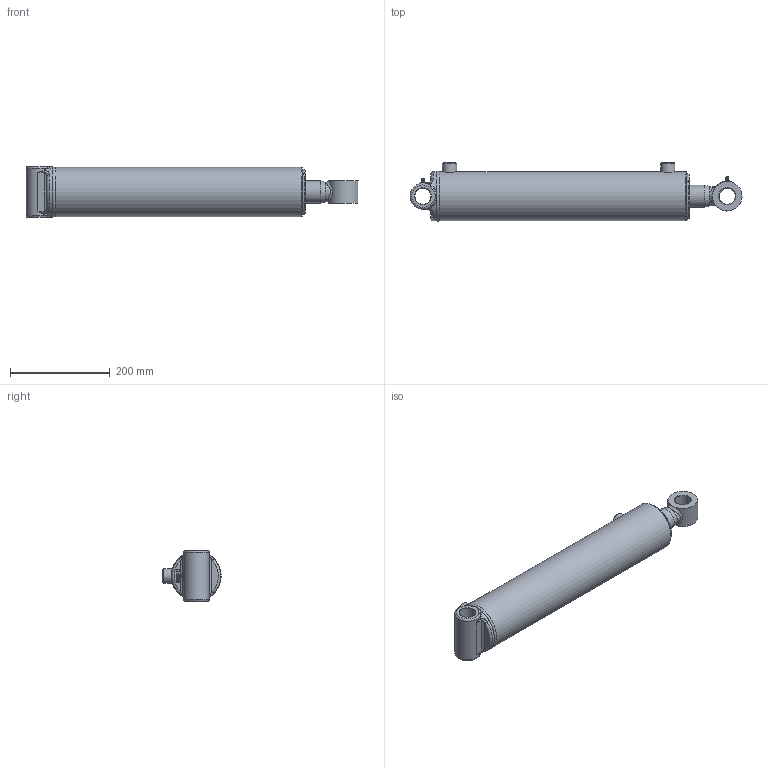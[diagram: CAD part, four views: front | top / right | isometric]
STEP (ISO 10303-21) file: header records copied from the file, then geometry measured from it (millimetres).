
FILE_DESCRIPTION(/* description */ ('Ø3.50 X 16.00 DA'),/* implementation_level */ '2;1');
FILE_NAME(/* name */ 'T:\Aces\Jobs\037ead3d15f64e9d9250a265fdf28e11\result.stp',/* time_stamp */ '2022-04-18T16:26:34+00:00',/* author */ (''),/* organization */ ('PRINCE MANUFACTURING'),/* preprocessor_version */ 'ST-DEVELOPER v18.1',/* originating_system */ 'Autodesk Inventor 2022',/* authorisation */ '');
FILE_SCHEMA (('AUTOMOTIVE_DESIGN { 1 0 10303 214 3 1 1 }'));
Length unit declared in the file: inch
Products named in the file (21): PC3516017A00-240XYXA; 0617-XYSF000-19570; 0517-T-19570; 161700179; 200015603; 06Weld1_C360; 0717-P-100; 220000210; 0817-G-175; 230025105; 230025005; 240000022; 240061338; 240000338; 0210A-HAW5-21687XA; 0110A-HAW5-21687; 210600529; 02Weld_C360; 240020007; 250014175; 270010020
Assembly tree (22 placements, depth 3):
  PC3516017A00-240XYXA
    0617-XYSF000-19570
      0517-T-19570
      161700179
      200015603  x2
      06Weld1_C360
    0717-P-100
    220000210
    0817-G-175
    230025105
    230025005
    240000022
    240061338
    240000338
    0210A-HAW5-21687XA
      0110A-HAW5-21687
      210600529
      02Weld_C360
    240020007
    250014175
    270010020  x2
Bounding box: 665.12 x 116.74 x 101.6 mm (x, y, z)
Volume: 2177933 mm3; surface area: 558934.2 mm2
Topology: 26 solids, 26 shells, 536 faces, 1281 edges, 823 vertices
Faces by surface type: plane 144, bspline 128, torus 89, cylinder 87, cone 84, sphere 4
Full cylindrical faces by diameter (mm): 2.143 x4, 3.175 x1, 5.359 x2, 6.35 x2, 9.525 x2, 12.649 x1, 12.7 x1, 12.725 x1, 17.323 x2, 23.444 x1, 25.349 x1, 25.476 x1, 27.965 x1, 28.575 x2, 32.131 x2, 44.45 x1, 44.526 x2, 45.644 x2, 46.482 x1, 46.838 x1, 51.613 x1, 52.807 x1, 54 x1, 55.626 x2, 57.15 x2, 61.976 x1, 69.85 x2, 79.477 x2, 80.213 x2, 83.82 x1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
Entity records: 29462 total; most frequent: CARTESIAN_POINT 17326, ORIENTED_EDGE 2352, DIRECTION 2142, EDGE_CURVE 1176, AXIS2_PLACEMENT_3D 908, VERTEX_POINT 762, EDGE_LOOP 572, FACE_OUTER_BOUND 492
